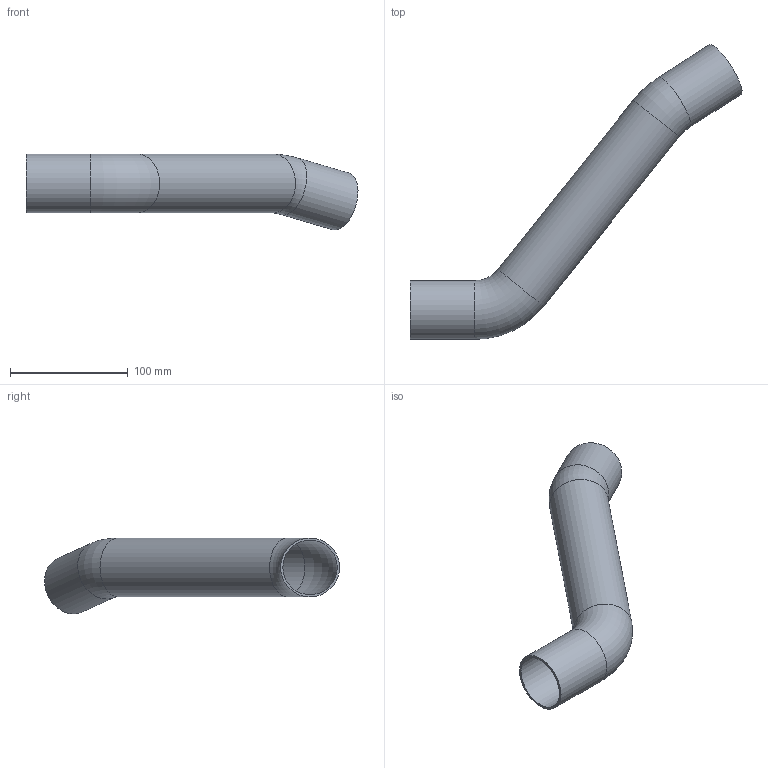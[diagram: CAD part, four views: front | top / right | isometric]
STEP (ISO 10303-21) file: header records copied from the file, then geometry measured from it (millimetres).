
FILE_DESCRIPTION(/* description */ ('Alibre Inc.'),/* implementation_level */ '2;1');
FILE_NAME(/* name */ 'export0',/* time_stamp */ '2007-06-12T12:42:03+02:00',/* author */ (''),/* organization */ (''),/* preprocessor_version */ 'ST-DEVELOPER v10',/* originating_system */ 'Alibre',/* authorisation */ '');
FILE_SCHEMA (('ALIBRE_SCHEMA','CONFIG_CONTROL_DESIGN'));
Length unit declared in the file: millimetre
Products named in the file (1): ID_1
Bounding box: 282.08 x 250.55 x 64.55 mm (x, y, z)
Volume: 101950 mm3; surface area: 108774.4 mm2
Topology: 1 solids, 1 shells, 12 faces, 22 edges, 12 vertices
Faces by surface type: cylinder 6, torus 4, plane 2
Full cylindrical faces by diameter (mm): 46.231 x3, 50 x3
Entity records: 802 total; most frequent: CARTESIAN_POINT 75, DIRECTION 70, PERSISTANTTOPOLOGYATTRIBUTE 55, CONSTRAINTPAIRXYZ 31, AXIS2_PLACEMENT_3D 30, INTEGERVALUEPAIR 28, REFERENCEDEPENDENTXYZ 25, ORIENTED_EDGE 24
